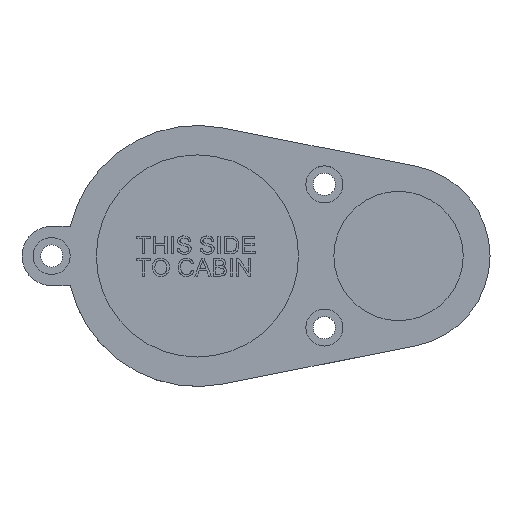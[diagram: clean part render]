
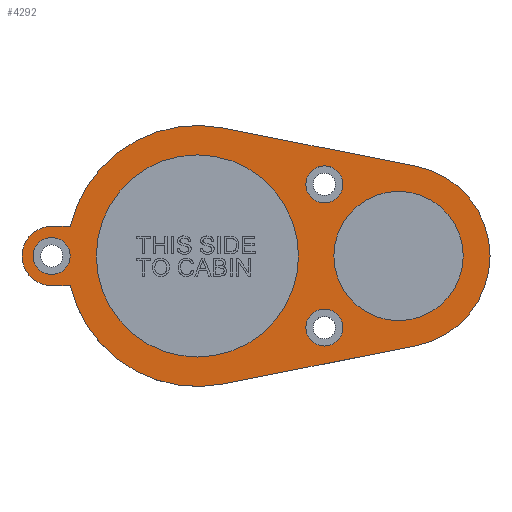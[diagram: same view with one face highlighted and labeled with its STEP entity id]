
A CAD part, top view. The second image highlights one B-rep face of the part: STEP entity #4292.
In plain terms, the highlighted planar face has unit normal (0, 0, 1).
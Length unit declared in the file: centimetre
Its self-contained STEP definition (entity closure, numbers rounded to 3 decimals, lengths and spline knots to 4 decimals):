
#105=CIRCLE('',#4423,1.7463);
#107=CIRCLE('',#4427,2.7305);
#108=CIRCLE('',#4429,2.4702);
#109=CIRCLE('',#4430,3.525);
#110=CIRCLE('',#4431,0.8);
#111=CIRCLE('',#4432,3.525);
#112=CIRCLE('',#4433,0.5);
#113=CIRCLE('',#4434,0.5);
#114=CIRCLE('',#4435,0.5);
#829=VERTEX_POINT('',#7141);
#831=VERTEX_POINT('',#7147);
#832=VERTEX_POINT('',#7150);
#833=VERTEX_POINT('',#7151);
#834=VERTEX_POINT('',#7153);
#835=VERTEX_POINT('',#7155);
#836=VERTEX_POINT('',#7157);
#837=VERTEX_POINT('',#7159);
#838=VERTEX_POINT('',#7161);
#839=VERTEX_POINT('',#7163);
#840=VERTEX_POINT('',#7166);
#841=VERTEX_POINT('',#7168);
#842=VERTEX_POINT('',#7170);
#1242=VECTOR('',#4975,1.);
#1243=VECTOR('',#4978,1.);
#1244=VECTOR('',#4981,1.);
#1245=VECTOR('',#4984,1.);
#1640=LINE('',#7152,#1242);
#1641=LINE('',#7156,#1243);
#1642=LINE('',#7160,#1244);
#1643=LINE('',#7164,#1245);
#2239=EDGE_CURVE('',#829,#829,#105,.T.);
#2241=EDGE_CURVE('',#831,#831,#107,.T.);
#2242=EDGE_CURVE('',#832,#833,#108,.T.);
#2243=EDGE_CURVE('',#834,#832,#1640,.T.);
#2244=EDGE_CURVE('',#835,#834,#109,.T.);
#2245=EDGE_CURVE('',#836,#835,#1641,.T.);
#2246=EDGE_CURVE('',#837,#836,#110,.T.);
#2247=EDGE_CURVE('',#838,#837,#1642,.T.);
#2248=EDGE_CURVE('',#839,#838,#111,.T.);
#2249=EDGE_CURVE('',#833,#839,#1643,.T.);
#2250=EDGE_CURVE('',#840,#840,#112,.T.);
#2251=EDGE_CURVE('',#841,#841,#113,.T.);
#2252=EDGE_CURVE('',#842,#842,#114,.T.);
#3448=ORIENTED_EDGE('',*,*,#2242,.F.);
#3449=ORIENTED_EDGE('',*,*,#2243,.F.);
#3450=ORIENTED_EDGE('',*,*,#2244,.F.);
#3451=ORIENTED_EDGE('',*,*,#2245,.F.);
#3452=ORIENTED_EDGE('',*,*,#2246,.F.);
#3453=ORIENTED_EDGE('',*,*,#2247,.F.);
#3454=ORIENTED_EDGE('',*,*,#2248,.F.);
#3455=ORIENTED_EDGE('',*,*,#2249,.F.);
#3456=ORIENTED_EDGE('',*,*,#2250,.T.);
#3457=ORIENTED_EDGE('',*,*,#2251,.T.);
#3458=ORIENTED_EDGE('',*,*,#2252,.T.);
#3459=ORIENTED_EDGE('',*,*,#2241,.T.);
#3460=ORIENTED_EDGE('',*,*,#2239,.T.);
#3762=EDGE_LOOP('',(#3448,#3449,#3450,#3451,#3452,#3453,#3454,#3455));
#3763=EDGE_LOOP('',(#3456));
#3764=EDGE_LOOP('',(#3457));
#3765=EDGE_LOOP('',(#3458));
#3766=EDGE_LOOP('',(#3459));
#3767=EDGE_LOOP('',(#3460));
#4038=FACE_BOUND('',#3762,.T.);
#4039=FACE_BOUND('',#3763,.T.);
#4040=FACE_BOUND('',#3764,.T.);
#4041=FACE_BOUND('',#3765,.T.);
#4042=FACE_BOUND('',#3766,.T.);
#4043=FACE_BOUND('',#3767,.T.);
#4292=ADVANCED_FACE('',(#4038,#4039,#4040,#4041,#4042,#4043),#7342,.T.);
#4423=AXIS2_PLACEMENT_3D('',#7140,#4963,#4964);
#4427=AXIS2_PLACEMENT_3D('',#7146,#4970,#4971);
#4428=AXIS2_PLACEMENT_3D('',#7148,#4972,$);
#4429=AXIS2_PLACEMENT_3D('',#7149,#4973,#4974);
#4430=AXIS2_PLACEMENT_3D('',#7154,#4976,#4977);
#4431=AXIS2_PLACEMENT_3D('',#7158,#4979,#4980);
#4432=AXIS2_PLACEMENT_3D('',#7162,#4982,#4983);
#4433=AXIS2_PLACEMENT_3D('',#7165,#4985,#4986);
#4434=AXIS2_PLACEMENT_3D('',#7167,#4987,#4988);
#4435=AXIS2_PLACEMENT_3D('',#7169,#4989,#4990);
#4963=DIRECTION('',(0.,0.,-1.));
#4964=DIRECTION('',(1.746,0.,0.));
#4970=DIRECTION('',(0.,0.,-1.));
#4971=DIRECTION('',(2.731,0.,0.));
#4972=DIRECTION('',(0.,0.,1.));
#4973=DIRECTION('',(0.,0.,-1.));
#4974=DIRECTION('',(2.47,0.,0.));
#4975=DIRECTION('',(0.981,-0.194,0.));
#4976=DIRECTION('',(0.,0.,-1.));
#4977=DIRECTION('',(3.525,0.,0.));
#4978=DIRECTION('',(1.,0.,0.));
#4979=DIRECTION('',(0.,0.,-1.));
#4980=DIRECTION('',(0.8,0.,0.));
#4981=DIRECTION('',(-1.,0.,0.));
#4982=DIRECTION('',(0.,0.,-1.));
#4983=DIRECTION('',(3.525,0.,0.));
#4984=DIRECTION('',(-0.981,-0.194,0.));
#4985=DIRECTION('',(0.,0.,-1.));
#4986=DIRECTION('',(0.5,0.,0.));
#4987=DIRECTION('',(0.,0.,-1.));
#4988=DIRECTION('',(0.5,0.,0.));
#4989=DIRECTION('',(0.,0.,-1.));
#4990=DIRECTION('',(0.5,0.,0.));
#7140=CARTESIAN_POINT('',(5.4327,0.,1.8));
#7141=CARTESIAN_POINT('',(7.1789,0.,1.8));
#7146=CARTESIAN_POINT('',(0.,0.,1.8));
#7147=CARTESIAN_POINT('',(2.7305,0.,1.8));
#7148=CARTESIAN_POINT('',(1.5734,0.,1.8));
#7149=CARTESIAN_POINT('',(5.4327,0.,1.8));
#7150=CARTESIAN_POINT('',(5.9123,2.4231,1.8));
#7151=CARTESIAN_POINT('',(5.9123,-2.4231,1.8));
#7152=CARTESIAN_POINT('',(0.6844,3.4579,1.8));
#7153=CARTESIAN_POINT('',(0.6844,3.4579,1.8));
#7154=CARTESIAN_POINT('',(0.,0.,1.8));
#7155=CARTESIAN_POINT('',(-3.433,0.8,1.8));
#7156=CARTESIAN_POINT('',(-3.9376,0.8,1.8));
#7157=CARTESIAN_POINT('',(-3.9376,0.8,1.8));
#7158=CARTESIAN_POINT('',(-3.9376,0.,1.8));
#7159=CARTESIAN_POINT('',(-3.9376,-0.8,1.8));
#7160=CARTESIAN_POINT('',(-3.433,-0.8,1.8));
#7161=CARTESIAN_POINT('',(-3.433,-0.8,1.8));
#7162=CARTESIAN_POINT('',(0.,0.,1.8));
#7163=CARTESIAN_POINT('',(0.6844,-3.4579,1.8));
#7164=CARTESIAN_POINT('',(5.9123,-2.4231,1.8));
#7165=CARTESIAN_POINT('',(-3.9376,0.,1.8));
#7166=CARTESIAN_POINT('',(-3.4376,0.,1.8));
#7167=CARTESIAN_POINT('',(3.4299,-1.934,1.8));
#7168=CARTESIAN_POINT('',(3.9299,-1.934,1.8));
#7169=CARTESIAN_POINT('',(3.4299,1.934,1.8));
#7170=CARTESIAN_POINT('',(3.9299,1.934,1.8));
#7342=PLANE('',#4428);
